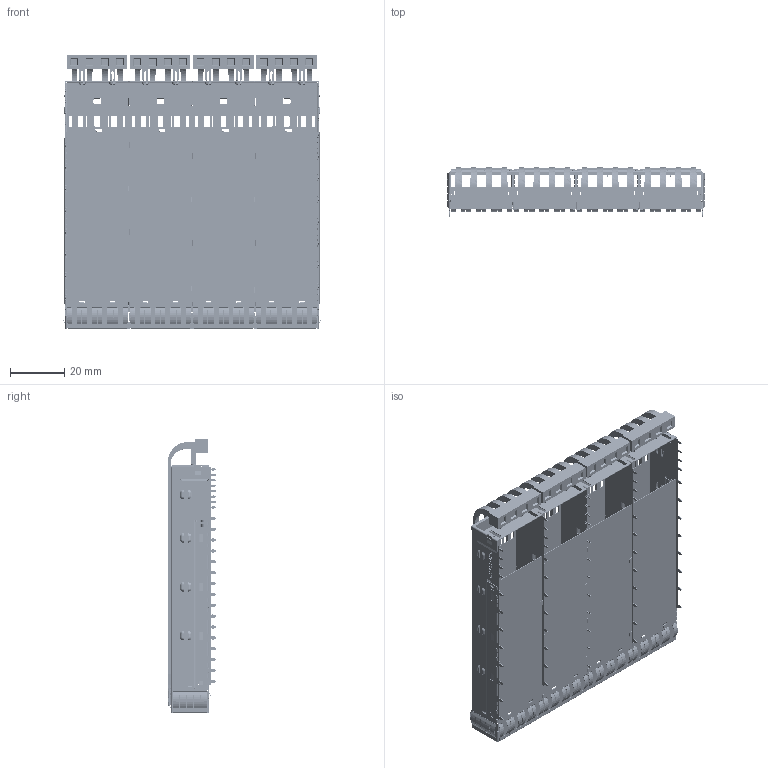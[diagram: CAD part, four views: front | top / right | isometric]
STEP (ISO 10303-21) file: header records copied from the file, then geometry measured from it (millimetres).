
FILE_DESCRIPTION((''),'2;1');
FILE_NAME('OSFP_CAGE_1X4_UPPER_68_1_1','2026-06-25T13:53:49',('39002408'),(''),'CREO PARAMETRIC BY PTC INC, 2019471','CREO PARAMETRIC BY PTC INC, 2019471','');
FILE_SCHEMA(('CONFIG_CONTROL_DESIGN'));
Products named in the file (1): OSFP_CAGE_1X4_UPPER_68_1_1
Bounding box: 95.16 x 17.95 x 100.71 mm (x, y, z)
Volume: 12482.1 mm3; surface area: 64485.9 mm2
Topology: 1 solids, 1 shells, 9848 faces, 27242 edges, 16983 vertices
Faces by surface type: plane 5186, cylinder 3552, bspline 889, torus 82, cone 80, extrusion 59
Entity records: 343558 total; most frequent: CARTESIAN_POINT 94313, ORIENTED_EDGE 54484, DIRECTION 49204, EDGE_CURVE 27242, VECTOR 17962, LINE 17903, VERTEX_POINT 16983, AXIS2_PLACEMENT_3D 15621
